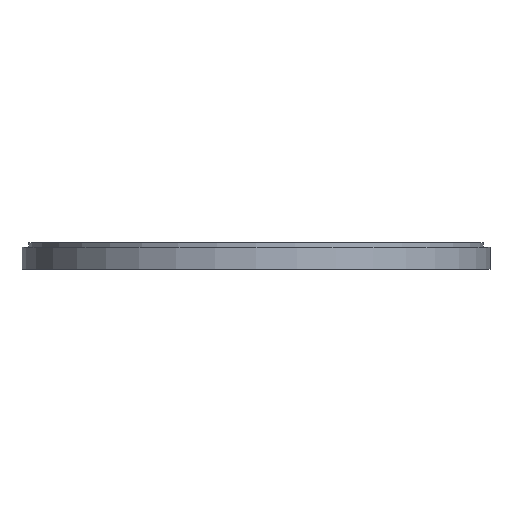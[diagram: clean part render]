
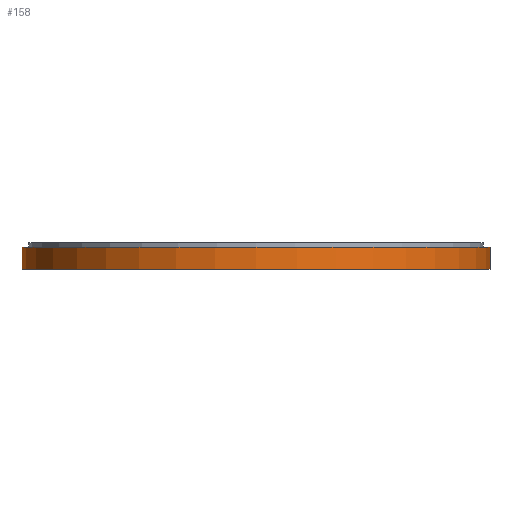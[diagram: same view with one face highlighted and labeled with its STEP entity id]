
A CAD part, front view. The second image highlights one B-rep face of the part: STEP entity #158.
In plain terms, the highlighted cylindrical face has radius 85 mm (diameter 170 mm), a full revolution.
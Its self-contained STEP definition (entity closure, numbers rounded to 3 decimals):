
#61 = PLANE('',#62);
#62 = AXIS2_PLACEMENT_3D('',#63,#64,#65);
#63 = CARTESIAN_POINT('',(0.,0.,98.));
#64 = DIRECTION('',(0.,0.,1.));
#65 = DIRECTION('',(1.,0.,-0.));
#111 = PLANE('',#112);
#112 = AXIS2_PLACEMENT_3D('',#113,#114,#115);
#113 = CARTESIAN_POINT('',(0.,0.,90.));
#114 = DIRECTION('',(0.,0.,1.));
#115 = DIRECTION('',(1.,0.,-0.));
#130 = EDGE_CURVE('',#131,#131,#133,.T.);
#131 = VERTEX_POINT('',#132);
#132 = CARTESIAN_POINT('',(85.,0.,90.));
#133 = SURFACE_CURVE('',#134,(#139,#146),.PCURVE_S1.);
#134 = CIRCLE('',#135,85.);
#135 = AXIS2_PLACEMENT_3D('',#136,#137,#138);
#136 = CARTESIAN_POINT('',(0.,0.,90.));
#137 = DIRECTION('',(0.,0.,1.));
#138 = DIRECTION('',(1.,0.,-0.));
#139 = PCURVE('',#111,#140);
#140 = DEFINITIONAL_REPRESENTATION('',(#141),#145);
#141 = CIRCLE('',#142,85.);
#142 = AXIS2_PLACEMENT_2D('',#143,#144);
#143 = CARTESIAN_POINT('',(0.,0.));
#144 = DIRECTION('',(1.,-0.));
#145 = ( GEOMETRIC_REPRESENTATION_CONTEXT(2) 
PARAMETRIC_REPRESENTATION_CONTEXT() REPRESENTATION_CONTEXT('2D SPACE',''
  ) );
#146 = PCURVE('',#147,#152);
#147 = CYLINDRICAL_SURFACE('',#148,85.);
#148 = AXIS2_PLACEMENT_3D('',#149,#150,#151);
#149 = CARTESIAN_POINT('',(0.,0.,90.));
#150 = DIRECTION('',(0.,0.,1.));
#151 = DIRECTION('',(1.,0.,-0.));
#152 = DEFINITIONAL_REPRESENTATION('',(#153),#157);
#153 = LINE('',#154,#155);
#154 = CARTESIAN_POINT('',(0.,0.));
#155 = VECTOR('',#156,1.);
#156 = DIRECTION('',(1.,0.));
#157 = ( GEOMETRIC_REPRESENTATION_CONTEXT(2) 
PARAMETRIC_REPRESENTATION_CONTEXT() REPRESENTATION_CONTEXT('2D SPACE',''
  ) );
#158 = ADVANCED_FACE('',(#159),#147,.T.);
#159 = FACE_BOUND('',#160,.T.);
#160 = EDGE_LOOP('',(#161,#162,#185,#207));
#161 = ORIENTED_EDGE('',*,*,#130,.T.);
#162 = ORIENTED_EDGE('',*,*,#163,.T.);
#163 = EDGE_CURVE('',#131,#164,#166,.T.);
#164 = VERTEX_POINT('',#165);
#165 = CARTESIAN_POINT('',(85.,0.,98.));
#166 = SEAM_CURVE('',#167,(#171,#178),.PCURVE_S1.);
#167 = LINE('',#168,#169);
#168 = CARTESIAN_POINT('',(85.,0.,90.));
#169 = VECTOR('',#170,1.);
#170 = DIRECTION('',(0.,0.,1.));
#171 = PCURVE('',#147,#172);
#172 = DEFINITIONAL_REPRESENTATION('',(#173),#177);
#173 = LINE('',#174,#175);
#174 = CARTESIAN_POINT('',(0.,0.));
#175 = VECTOR('',#176,1.);
#176 = DIRECTION('',(0.,1.));
#177 = ( GEOMETRIC_REPRESENTATION_CONTEXT(2) 
PARAMETRIC_REPRESENTATION_CONTEXT() REPRESENTATION_CONTEXT('2D SPACE',''
  ) );
#178 = PCURVE('',#147,#179);
#179 = DEFINITIONAL_REPRESENTATION('',(#180),#184);
#180 = LINE('',#181,#182);
#181 = CARTESIAN_POINT('',(6.283,0.));
#182 = VECTOR('',#183,1.);
#183 = DIRECTION('',(0.,1.));
#184 = ( GEOMETRIC_REPRESENTATION_CONTEXT(2) 
PARAMETRIC_REPRESENTATION_CONTEXT() REPRESENTATION_CONTEXT('2D SPACE',''
  ) );
#185 = ORIENTED_EDGE('',*,*,#186,.F.);
#186 = EDGE_CURVE('',#164,#164,#187,.T.);
#187 = SURFACE_CURVE('',#188,(#193,#200),.PCURVE_S1.);
#188 = CIRCLE('',#189,85.);
#189 = AXIS2_PLACEMENT_3D('',#190,#191,#192);
#190 = CARTESIAN_POINT('',(0.,0.,98.));
#191 = DIRECTION('',(0.,0.,1.));
#192 = DIRECTION('',(1.,0.,-0.));
#193 = PCURVE('',#147,#194);
#194 = DEFINITIONAL_REPRESENTATION('',(#195),#199);
#195 = LINE('',#196,#197);
#196 = CARTESIAN_POINT('',(0.,8.));
#197 = VECTOR('',#198,1.);
#198 = DIRECTION('',(1.,0.));
#199 = ( GEOMETRIC_REPRESENTATION_CONTEXT(2) 
PARAMETRIC_REPRESENTATION_CONTEXT() REPRESENTATION_CONTEXT('2D SPACE',''
  ) );
#200 = PCURVE('',#61,#201);
#201 = DEFINITIONAL_REPRESENTATION('',(#202),#206);
#202 = CIRCLE('',#203,85.);
#203 = AXIS2_PLACEMENT_2D('',#204,#205);
#204 = CARTESIAN_POINT('',(0.,0.));
#205 = DIRECTION('',(1.,0.));
#206 = ( GEOMETRIC_REPRESENTATION_CONTEXT(2) 
PARAMETRIC_REPRESENTATION_CONTEXT() REPRESENTATION_CONTEXT('2D SPACE',''
  ) );
#207 = ORIENTED_EDGE('',*,*,#163,.F.);
